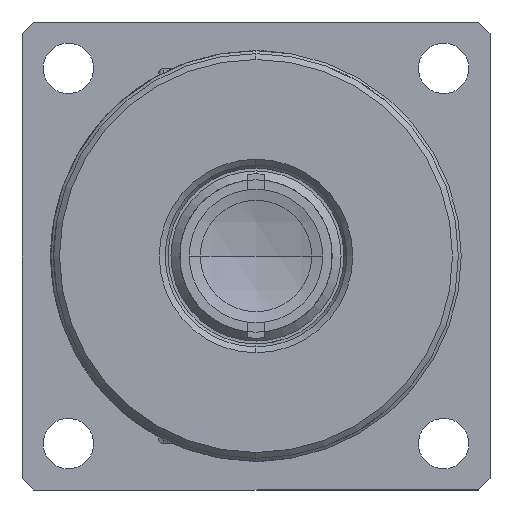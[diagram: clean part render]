
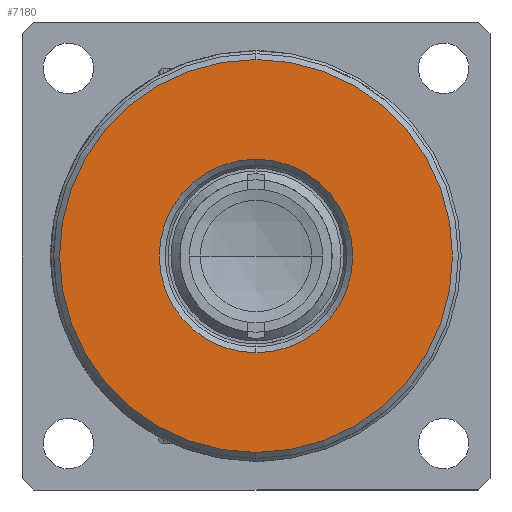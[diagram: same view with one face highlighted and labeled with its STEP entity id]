
A CAD part, left-side view. The second image highlights one B-rep face of the part: STEP entity #7180.
In plain terms, the highlighted planar face has unit normal (-1, 0, 0).
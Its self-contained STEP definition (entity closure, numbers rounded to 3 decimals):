
#317 = PLANE ( 'NONE',  #7824 ) ;
#586 = DIRECTION ( 'NONE',  ( 1., 0., 0. ) ) ;
#617 = EDGE_CURVE ( 'NONE', #9099, #1235, #6104, .T. ) ;
#1235 = VERTEX_POINT ( 'NONE', #7849 ) ;
#1270 = ORIENTED_EDGE ( 'NONE', *, *, #617, .T. ) ;
#1563 = CARTESIAN_POINT ( 'NONE',  ( 0., 0., 0. ) ) ;
#1577 = EDGE_CURVE ( 'NONE', #6850, #10166, #1708, .T. ) ;
#1708 = CIRCLE ( 'NONE', #8093, 16.75 ) ;
#1717 = AXIS2_PLACEMENT_3D ( 'NONE', #1563, #7342, #2419 ) ;
#1968 = CIRCLE ( 'NONE', #2335, 8.25 ) ;
#2335 = AXIS2_PLACEMENT_3D ( 'NONE', #5554, #586, #6396 ) ;
#2419 = DIRECTION ( 'NONE',  ( 0., 0., -1. ) ) ;
#2540 = CIRCLE ( 'NONE', #1717, 16.75 ) ;
#2603 = ORIENTED_EDGE ( 'NONE', *, *, #5963, .T. ) ;
#2642 = ORIENTED_EDGE ( 'NONE', *, *, #3170, .T. ) ;
#2745 = CARTESIAN_POINT ( 'NONE',  ( 0., 0., 16.75 ) ) ;
#2763 = CARTESIAN_POINT ( 'NONE',  ( 0., 0., -8.25 ) ) ;
#2892 = CARTESIAN_POINT ( 'NONE',  ( 0., 0., 0. ) ) ;
#3170 = EDGE_CURVE ( 'NONE', #1235, #9099, #1968, .T. ) ;
#3266 = EDGE_LOOP ( 'NONE', ( #2642, #1270 ) ) ;
#3690 = CARTESIAN_POINT ( 'NONE',  ( 0., 7.75, 0. ) ) ;
#3721 = DIRECTION ( 'NONE',  ( 0., 0., -1. ) ) ;
#4215 = FACE_OUTER_BOUND ( 'NONE', #6061, .T. ) ;
#4495 = DIRECTION ( 'NONE',  ( 0., 0., -1. ) ) ;
#4661 = AXIS2_PLACEMENT_3D ( 'NONE', #2892, #8652, #3721 ) ;
#4761 = DIRECTION ( 'NONE',  ( -1., 0., 0. ) ) ;
#5554 = CARTESIAN_POINT ( 'NONE',  ( 0., 0., 0. ) ) ;
#5963 = EDGE_CURVE ( 'NONE', #10166, #6850, #2540, .T. ) ;
#6061 = EDGE_LOOP ( 'NONE', ( #2603, #6628 ) ) ;
#6104 = CIRCLE ( 'NONE', #4661, 8.25 ) ;
#6349 = CARTESIAN_POINT ( 'NONE',  ( 0., 0., -16.75 ) ) ;
#6396 = DIRECTION ( 'NONE',  ( 0., 0., -1. ) ) ;
#6628 = ORIENTED_EDGE ( 'NONE', *, *, #1577, .T. ) ;
#6850 = VERTEX_POINT ( 'NONE', #2745 ) ;
#7180 = ADVANCED_FACE ( 'NONE', ( #8865, #4215 ), #317, .F. ) ;
#7342 = DIRECTION ( 'NONE',  ( -1., 0., 0. ) ) ;
#7824 = AXIS2_PLACEMENT_3D ( 'NONE', #3690, #9435, #4495 ) ;
#7849 = CARTESIAN_POINT ( 'NONE',  ( 0., 0., 8.25 ) ) ;
#8093 = AXIS2_PLACEMENT_3D ( 'NONE', #9693, #4761, #10518 ) ;
#8652 = DIRECTION ( 'NONE',  ( 1., 0., 0. ) ) ;
#8865 = FACE_BOUND ( 'NONE', #3266, .T. ) ;
#9099 = VERTEX_POINT ( 'NONE', #2763 ) ;
#9435 = DIRECTION ( 'NONE',  ( 1., 0., 0. ) ) ;
#9693 = CARTESIAN_POINT ( 'NONE',  ( 0., 0., 0. ) ) ;
#10166 = VERTEX_POINT ( 'NONE', #6349 ) ;
#10518 = DIRECTION ( 'NONE',  ( 0., 0., -1. ) ) ;
